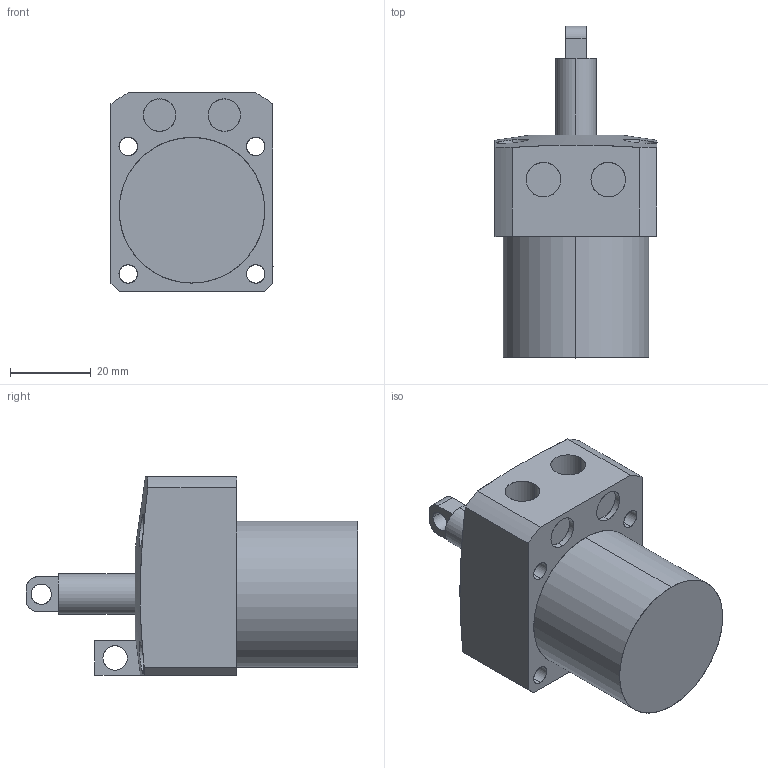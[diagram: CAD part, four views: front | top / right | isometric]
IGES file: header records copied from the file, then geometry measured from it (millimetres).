
Start section: SolidWorks IGES file using analytic representation for surfaces
Global section: file name: E:\karthik\pneu toogle\36\0412-0361.IGS; native system: SolidWorks 2010; preprocessor: SolidWorks 2010; author: karthik; date: 130916.170212; units: millimetre
Bounding box: 40.03 x 82 x 49 mm (x, y, z)
Surface area: 15345 mm2 (no closed solid volume)
Topology: 0 solids, 0 shells, 76 faces, 1583 edges, 1583 vertices
Faces by surface type: revolution 45, bspline 31
